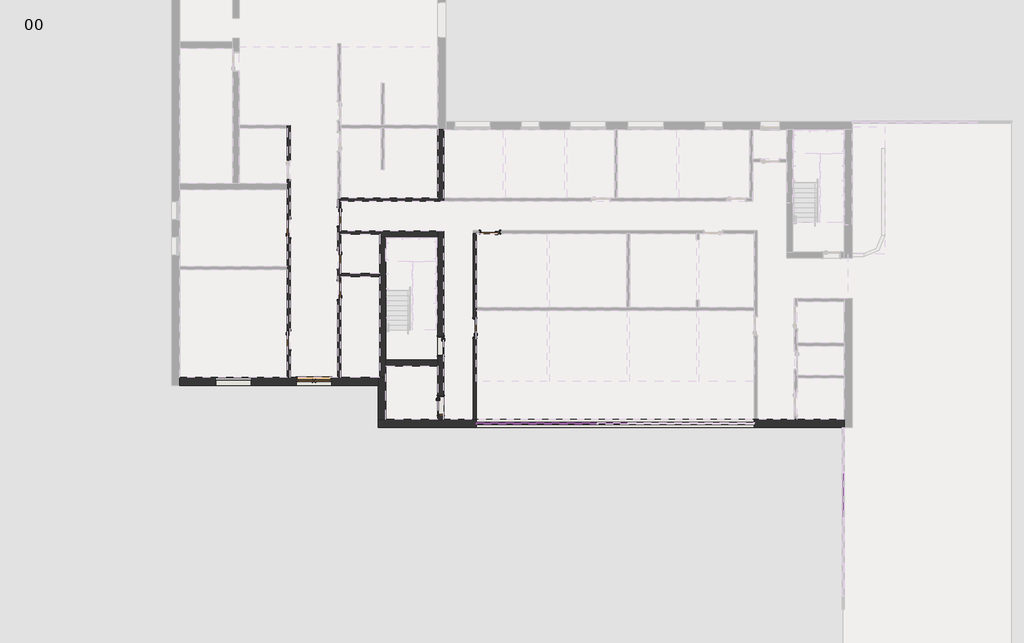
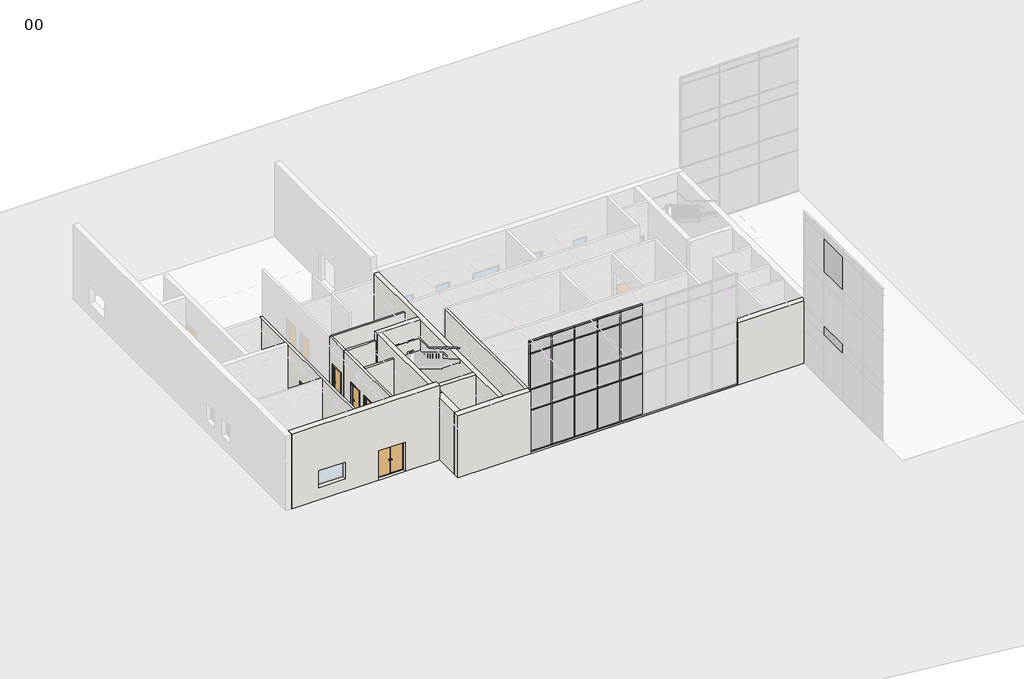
# One storey, part 2 of 11: 40 members, 22 plates, 14 walls, 10 doors.
"""IFC4 building model written with IfcOpenShell, lengths in millimetres."""

from ifc_helpers import new_model, si_unit, frame, origin, origin_with_axes, place, context, project, spatial, polyline, outline, extrude, faceted_brep, transform, mapped, element, save
from components import doors_intsgl_1_1010x2110mm_7920e6b8, doors_intsgl_1_1010x2110mm_12a6edaf, doors_intsgl_1_1010x2110mm_5517da8e, doors_intsgl_1_1010x2110mm_5eebe40c, doors_sco_extdbl_flush_1810x2110mm_3cdf6cdb, rectangular_mullion_curtainwallmullion_rectangular_generic_c971d07e, rectangular_mullion_curtainwallmullion_rectangular_generic_e6673756, rectangular_mullion_curtainwallmullion_rectangular_generic_63c9f2cf, rectangular_mullion_curtainwallmullion_rectangular_generic_d70bf6dd, rectangular_mullion_curtainwallmullion_rectangular_generic_654ac675, rectangular_mullion_curtainwallmullion_rectangular_generic_e7c47ca9, rectangular_mullion_curtainwallmullion_rectangular_generic_f3eef52e, rectangular_mullion_curtainwallmullion_rectangular_generic_c0600e94, rectangular_mullion_curtainwallmullion_rectangular_generic_0bcd7f07, rectangular_mullion_curtainwallmullion_rectangular_generic_3bdb59d8, rectangular_mullion_curtainwallmullion_rectangular_generic_0752d91b, rectangular_mullion_curtainwallmullion_rectangular_generic_141bc770, system_panel_curtainpanel_glazed_c42a0534, system_panel_curtainpanel_glazed_c680861d, system_panel_curtainpanel_glazed_7c054268, system_panel_curtainpanel_glazed_47e39832, system_panel_curtainpanel_glazed_d09689ee, system_panel_curtainpanel_solid_d52ec4f6, system_panel_curtainpanel_solid_5b00d7df, system_panel_curtainpanel_solid_a154ba9f, system_panel_curtainpanel_solid_78233117, system_panel_curtainpanel_solid_a9b64b58

model = new_model("IFC4")

# Units and contexts
model_context = context("Model", 3, world=origin())
ifc_project = project(units=[si_unit("LENGTHUNIT", "METRE", prefix="MILLI")], contexts=[model_context])

# Site, building, storey
site = spatial("IfcSite", under=ifc_project)
building = spatial("IfcBuilding", under=site)
storey = spatial("IfcBuildingStorey", under=building, Name="00", Elevation=0.0)

# Doors
placement = place(None, origin())
doors_intsgl_1_1010x2110mm_shape = doors_intsgl_1_1010x2110mm_7920e6b8(model_context)
element("IfcDoor", 1, ObjectType="Doors_IntSgl_1 : 1010x2110mm", at=placement, inside=storey, context=model_context, shape_type="MappedRepresentation", body=[
    mapped(doors_intsgl_1_1010x2110mm_shape, transform((417435.3206883, -392289.0026386, 0.0), x_axis=(0.0, -1.0, 0.0), y_axis=(1.0, 0.0, 0.0), z_axis=(0.0, 0.0, 1.0))),
])
doors_intsgl_1_1010x2110mm_2_shape = doors_intsgl_1_1010x2110mm_12a6edaf(model_context)
element("IfcDoor", 2, ObjectType="Doors_IntSgl_1 : 1010x2110mm", at=placement, inside=storey, context=model_context, shape_type="MappedRepresentation", body=[
    mapped(doors_intsgl_1_1010x2110mm_2_shape, transform((417435.3206883, -386584.0026386, 0.0), x_axis=(0.0, 1.0, 0.0), y_axis=(-1.0, 0.0, 0.0), z_axis=(0.0, 0.0, 1.0))),
])
element("IfcDoor", 3, ObjectType="Doors_IntSgl_1 : 1010x2110mm", at=placement, inside=storey, context=model_context, shape_type="MappedRepresentation", body=[
    mapped(doors_intsgl_1_1010x2110mm_shape, transform((419987.3206883, -389744.0026386, 0.0), x_axis=(0.0, 1.0, 0.0), y_axis=(-1.0, 0.0, 0.0), z_axis=(0.0, 0.0, 1.0))),
])
element("IfcDoor", 4, ObjectType="Doors_IntSgl_1 : 1010x2110mm", at=placement, inside=storey, context=model_context, shape_type="MappedRepresentation", body=[
    mapped(doors_intsgl_1_1010x2110mm_shape, transform((426897.3206883, -391673.0026386, 0.0), x_axis=(0.0, 1.0, 0.0), y_axis=(-1.0, 0.0, 0.0), z_axis=(0.0, 0.0, 1.0))),
])
element("IfcDoor", 5, ObjectType="Doors_IntSgl_1 : 1010x2110mm", at=placement, inside=storey, context=model_context, shape_type="MappedRepresentation", body=[
    mapped(doors_intsgl_1_1010x2110mm_2_shape, transform((419987.3206883, -388184.0026386, 0.0), x_axis=(0.0, -1.0, 0.0), y_axis=(1.0, 0.0, 0.0), z_axis=(0.0, 0.0, 1.0))),
])
element("IfcDoor", 6, ObjectType="Doors_IntSgl_1 : 1010x2110mm", at=placement, inside=storey, context=model_context, shape_type="MappedRepresentation", body=[
    mapped(doors_intsgl_1_1010x2110mm_2_shape, transform((419987.3206883, -386006.5026386, 0.0), x_axis=(0.0, -1.0, 0.0), y_axis=(1.0, 0.0, 0.0), z_axis=(0.0, 0.0, 1.0))),
])
element("IfcDoor", 7, ObjectType="Doors_IntSgl_1 : 1010x2110mm", at=placement, inside=storey, context=model_context, shape_type="MappedRepresentation", body=[
    mapped(doors_intsgl_1_1010x2110mm_2_shape, transform((427677.3206883, -386774.0026386, 0.0), x_axis=(-1.0, 0.0, 0.0), y_axis=(0.0, -1.0, 0.0), z_axis=(0.0, 0.0, 1.0))),
])
doors_intsgl_1_1010x2110mm_3_shape = doors_intsgl_1_1010x2110mm_5517da8e(model_context)
element("IfcDoor", 8, ObjectType="Doors_IntSgl_1 : 1010x2110mm", at=placement, inside=storey, context=model_context, shape_type="MappedRepresentation", body=[
    mapped(doors_intsgl_1_1010x2110mm_3_shape, transform((425167.3206883, -392594.0026386, 0.0), x_axis=(0.0, -1.0, 0.0), y_axis=(1.0, 0.0, 0.0), z_axis=(0.0, 0.0, 1.0))),
])
doors_intsgl_1_1010x2110mm_4_shape = doors_intsgl_1_1010x2110mm_5eebe40c(model_context)
element("IfcDoor", 9, ObjectType="Doors_IntSgl_1 : 1010x2110mm", at=placement, inside=storey, context=model_context, shape_type="MappedRepresentation", body=[
    mapped(doors_intsgl_1_1010x2110mm_4_shape, transform((425167.3206883, -395623.0026386, 0.0), x_axis=(0.0, -1.0, 0.0), y_axis=(1.0, 0.0, 0.0), z_axis=(0.0, 0.0, 1.0))),
])
doors_sco_extdbl_flush_1810x2110mm_shape = doors_sco_extdbl_flush_1810x2110mm_3cdf6cdb(model_context)
element("IfcDoor", 10, ObjectType="Doors_SCO_ExtDbl_Flush : 1810x2110mm", at=placement, inside=storey, context=model_context, shape_type="MappedRepresentation", body=[
    mapped(doors_sco_extdbl_flush_1810x2110mm_shape, transform((418711.3206883, -394395.0026386, 0.0), x_axis=(1.0, 0.0, 0.0), y_axis=(0.0, 1.0, 0.0), z_axis=(0.0, 0.0, 1.0))),
])

# Members
rectangular_mullion_curtainwallmullion_rectangular_generic_shape = rectangular_mullion_curtainwallmullion_rectangular_generic_c971d07e(model_context)
element("IfcMember", 11, ObjectType="Rectangular Mullion : CurtainWallMullion_Rectangular_Generic", at=placement, inside=storey, context=model_context, shape_type="MappedRepresentation", body=[
    mapped(rectangular_mullion_curtainwallmullion_rectangular_generic_shape, transform((433166.7651328, -396529.0026386, 8000.0), x_axis=(0.0, 0.0, 1.0), y_axis=(0.0, 1.0, 0.0), z_axis=(-1.0, 0.0, 0.0))),
])
element("IfcMember", 12, ObjectType="Rectangular Mullion : CurtainWallMullion_Rectangular_Generic", at=placement, inside=storey, context=model_context, shape_type="MappedRepresentation", body=[
    mapped(rectangular_mullion_curtainwallmullion_rectangular_generic_shape, transform((431605.6540218, -396529.0026386, 8000.0), x_axis=(0.0, 0.0, 1.0), y_axis=(0.0, 1.0, 0.0), z_axis=(-1.0, 0.0, 0.0))),
])
element("IfcMember", 13, ObjectType="Rectangular Mullion : CurtainWallMullion_Rectangular_Generic", at=placement, inside=storey, context=model_context, shape_type="MappedRepresentation", body=[
    mapped(rectangular_mullion_curtainwallmullion_rectangular_generic_shape, transform((430044.5429107, -396529.0026386, 8000.0), x_axis=(0.0, 0.0, 1.0), y_axis=(0.0, 1.0, 0.0), z_axis=(-1.0, 0.0, 0.0))),
])
element("IfcMember", 14, ObjectType="Rectangular Mullion : CurtainWallMullion_Rectangular_Generic", at=placement, inside=storey, context=model_context, shape_type="MappedRepresentation", body=[
    mapped(rectangular_mullion_curtainwallmullion_rectangular_generic_shape, transform((428483.4317997, -396529.0026386, 8000.0), x_axis=(0.0, 0.0, 1.0), y_axis=(0.0, 1.0, 0.0), z_axis=(-1.0, 0.0, 0.0))),
])
element("IfcMember", 15, ObjectType="Rectangular Mullion : CurtainWallMullion_Rectangular_Generic", at=placement, inside=storey, context=model_context, shape_type="MappedRepresentation", body=[
    mapped(rectangular_mullion_curtainwallmullion_rectangular_generic_shape, transform((433166.7651328, -396529.0026386, 0.0), x_axis=(0.0, 0.0, -1.0), y_axis=(0.0, 1.0, 0.0), z_axis=(1.0, 0.0, 0.0))),
])
element("IfcMember", 16, ObjectType="Rectangular Mullion : CurtainWallMullion_Rectangular_Generic", at=placement, inside=storey, context=model_context, shape_type="MappedRepresentation", body=[
    mapped(rectangular_mullion_curtainwallmullion_rectangular_generic_shape, transform((431605.6540218, -396529.0026386, 0.0), x_axis=(0.0, 0.0, -1.0), y_axis=(0.0, 1.0, 0.0), z_axis=(1.0, 0.0, 0.0))),
])
element("IfcMember", 17, ObjectType="Rectangular Mullion : CurtainWallMullion_Rectangular_Generic", at=placement, inside=storey, context=model_context, shape_type="MappedRepresentation", body=[
    mapped(rectangular_mullion_curtainwallmullion_rectangular_generic_shape, transform((430044.5429107, -396529.0026386, 0.0), x_axis=(0.0, 0.0, -1.0), y_axis=(0.0, 1.0, 0.0), z_axis=(1.0, 0.0, 0.0))),
])
rectangular_mullion_curtainwallmullion_rectangular_generic_2_shape = rectangular_mullion_curtainwallmullion_rectangular_generic_e6673756(model_context)
element("IfcMember", 18, ObjectType="Rectangular Mullion : CurtainWallMullion_Rectangular_Generic", at=placement, inside=storey, context=model_context, shape_type="MappedRepresentation", body=[
    mapped(rectangular_mullion_curtainwallmullion_rectangular_generic_2_shape, transform((433191.7651328, -396529.0026386, 3000.0), x_axis=(0.0, 0.0, 1.0), y_axis=(0.0, 1.0, 0.0), z_axis=(-1.0, 0.0, 0.0))),
])
element("IfcMember", 19, ObjectType="Rectangular Mullion : CurtainWallMullion_Rectangular_Generic", at=placement, inside=storey, context=model_context, shape_type="MappedRepresentation", body=[
    mapped(rectangular_mullion_curtainwallmullion_rectangular_generic_2_shape, transform((431630.6540218, -396529.0026386, 3000.0), x_axis=(0.0, 0.0, 1.0), y_axis=(0.0, 1.0, 0.0), z_axis=(-1.0, 0.0, 0.0))),
])
element("IfcMember", 20, ObjectType="Rectangular Mullion : CurtainWallMullion_Rectangular_Generic", at=placement, inside=storey, context=model_context, shape_type="MappedRepresentation", body=[
    mapped(rectangular_mullion_curtainwallmullion_rectangular_generic_2_shape, transform((430069.5429107, -396529.0026386, 3000.0), x_axis=(0.0, 0.0, 1.0), y_axis=(0.0, 1.0, 0.0), z_axis=(-1.0, 0.0, 0.0))),
])
element("IfcMember", 21, ObjectType="Rectangular Mullion : CurtainWallMullion_Rectangular_Generic", at=placement, inside=storey, context=model_context, shape_type="MappedRepresentation", body=[
    mapped(rectangular_mullion_curtainwallmullion_rectangular_generic_2_shape, transform((428508.4317997, -396529.0026386, 3000.0), x_axis=(0.0, 0.0, 1.0), y_axis=(0.0, 1.0, 0.0), z_axis=(-1.0, 0.0, 0.0))),
])
element("IfcMember", 22, ObjectType="Rectangular Mullion : CurtainWallMullion_Rectangular_Generic", at=placement, inside=storey, context=model_context, shape_type="MappedRepresentation", body=[
    mapped(rectangular_mullion_curtainwallmullion_rectangular_generic_2_shape, transform((431630.6540218, -396529.0026386, 4500.0), x_axis=(0.0, 0.0, 1.0), y_axis=(0.0, 1.0, 0.0), z_axis=(-1.0, 0.0, 0.0))),
])
element("IfcMember", 23, ObjectType="Rectangular Mullion : CurtainWallMullion_Rectangular_Generic", at=placement, inside=storey, context=model_context, shape_type="MappedRepresentation", body=[
    mapped(rectangular_mullion_curtainwallmullion_rectangular_generic_2_shape, transform((430069.5429107, -396529.0026386, 4500.0), x_axis=(0.0, 0.0, 1.0), y_axis=(0.0, 1.0, 0.0), z_axis=(-1.0, 0.0, 0.0))),
])
element("IfcMember", 24, ObjectType="Rectangular Mullion : CurtainWallMullion_Rectangular_Generic", at=placement, inside=storey, context=model_context, shape_type="MappedRepresentation", body=[
    mapped(rectangular_mullion_curtainwallmullion_rectangular_generic_2_shape, transform((428508.4317997, -396529.0026386, 4500.0), x_axis=(0.0, 0.0, 1.0), y_axis=(0.0, 1.0, 0.0), z_axis=(-1.0, 0.0, 0.0))),
])
element("IfcMember", 25, ObjectType="Rectangular Mullion : CurtainWallMullion_Rectangular_Generic", at=placement, inside=storey, context=model_context, shape_type="MappedRepresentation", body=[
    mapped(rectangular_mullion_curtainwallmullion_rectangular_generic_2_shape, transform((431630.6540218, -396529.0026386, 7100.0), x_axis=(0.0, 0.0, 1.0), y_axis=(0.0, 1.0, 0.0), z_axis=(-1.0, 0.0, 0.0))),
])
element("IfcMember", 26, ObjectType="Rectangular Mullion : CurtainWallMullion_Rectangular_Generic", at=placement, inside=storey, context=model_context, shape_type="MappedRepresentation", body=[
    mapped(rectangular_mullion_curtainwallmullion_rectangular_generic_2_shape, transform((430069.5429107, -396529.0026386, 7100.0), x_axis=(0.0, 0.0, 1.0), y_axis=(0.0, 1.0, 0.0), z_axis=(-1.0, 0.0, 0.0))),
])
element("IfcMember", 27, ObjectType="Rectangular Mullion : CurtainWallMullion_Rectangular_Generic", at=placement, inside=storey, context=model_context, shape_type="MappedRepresentation", body=[
    mapped(rectangular_mullion_curtainwallmullion_rectangular_generic_2_shape, transform((428508.4317997, -396529.0026386, 7100.0), x_axis=(0.0, 0.0, 1.0), y_axis=(0.0, 1.0, 0.0), z_axis=(-1.0, 0.0, 0.0))),
])
rectangular_mullion_curtainwallmullion_rectangular_generic_3_shape = rectangular_mullion_curtainwallmullion_rectangular_generic_63c9f2cf(model_context)
element("IfcMember", 28, ObjectType="Rectangular Mullion : CurtainWallMullion_Rectangular_Generic", at=placement, inside=storey, context=model_context, shape_type="MappedRepresentation", body=[
    mapped(rectangular_mullion_curtainwallmullion_rectangular_generic_3_shape, transform((431605.6540218, -396529.0026386, 7100.0), x_axis=(-1.0, 0.0, 0.0), y_axis=(0.0, 1.0, 0.0), z_axis=(0.0, 0.0, -1.0))),
])
element("IfcMember", 29, ObjectType="Rectangular Mullion : CurtainWallMullion_Rectangular_Generic", at=placement, inside=storey, context=model_context, shape_type="MappedRepresentation", body=[
    mapped(rectangular_mullion_curtainwallmullion_rectangular_generic_3_shape, transform((430044.5429107, -396529.0026386, 7100.0), x_axis=(-1.0, 0.0, 0.0), y_axis=(0.0, 1.0, 0.0), z_axis=(0.0, 0.0, -1.0))),
])
element("IfcMember", 30, ObjectType="Rectangular Mullion : CurtainWallMullion_Rectangular_Generic", at=placement, inside=storey, context=model_context, shape_type="MappedRepresentation", body=[
    mapped(rectangular_mullion_curtainwallmullion_rectangular_generic_3_shape, transform((428483.4317997, -396529.0026386, 7100.0), x_axis=(-1.0, 0.0, 0.0), y_axis=(0.0, 1.0, 0.0), z_axis=(0.0, 0.0, -1.0))),
])
rectangular_mullion_curtainwallmullion_rectangular_generic_4_shape = rectangular_mullion_curtainwallmullion_rectangular_generic_d70bf6dd(model_context)
element("IfcMember", 31, ObjectType="Rectangular Mullion : CurtainWallMullion_Rectangular_Generic", at=placement, inside=storey, context=model_context, shape_type="MappedRepresentation", body=[
    mapped(rectangular_mullion_curtainwallmullion_rectangular_generic_4_shape, transform((426972.3206883, -396529.0026386, 7100.0), x_axis=(-1.0, 0.0, 0.0), y_axis=(0.0, 1.0, 0.0), z_axis=(0.0, 0.0, -1.0))),
])
rectangular_mullion_curtainwallmullion_rectangular_generic_5_shape = rectangular_mullion_curtainwallmullion_rectangular_generic_654ac675(model_context)
element("IfcMember", 32, ObjectType="Rectangular Mullion : CurtainWallMullion_Rectangular_Generic", at=placement, inside=storey, context=model_context, shape_type="MappedRepresentation", body=[
    mapped(rectangular_mullion_curtainwallmullion_rectangular_generic_5_shape, transform((431605.6540218, -396529.0026386, 4500.0), x_axis=(-1.0, 0.0, 0.0), y_axis=(0.0, 1.0, 0.0), z_axis=(0.0, 0.0, -1.0))),
])
element("IfcMember", 33, ObjectType="Rectangular Mullion : CurtainWallMullion_Rectangular_Generic", at=placement, inside=storey, context=model_context, shape_type="MappedRepresentation", body=[
    mapped(rectangular_mullion_curtainwallmullion_rectangular_generic_5_shape, transform((430044.5429107, -396529.0026386, 4500.0), x_axis=(-1.0, 0.0, 0.0), y_axis=(0.0, 1.0, 0.0), z_axis=(0.0, 0.0, -1.0))),
])
element("IfcMember", 34, ObjectType="Rectangular Mullion : CurtainWallMullion_Rectangular_Generic", at=placement, inside=storey, context=model_context, shape_type="MappedRepresentation", body=[
    mapped(rectangular_mullion_curtainwallmullion_rectangular_generic_5_shape, transform((428483.4317997, -396529.0026386, 4500.0), x_axis=(-1.0, 0.0, 0.0), y_axis=(0.0, 1.0, 0.0), z_axis=(0.0, 0.0, -1.0))),
])
rectangular_mullion_curtainwallmullion_rectangular_generic_6_shape = rectangular_mullion_curtainwallmullion_rectangular_generic_e7c47ca9(model_context)
element("IfcMember", 35, ObjectType="Rectangular Mullion : CurtainWallMullion_Rectangular_Generic", at=placement, inside=storey, context=model_context, shape_type="MappedRepresentation", body=[
    mapped(rectangular_mullion_curtainwallmullion_rectangular_generic_6_shape, transform((426972.3206883, -396529.0026386, 4500.0), x_axis=(-1.0, 0.0, 0.0), y_axis=(0.0, 1.0, 0.0), z_axis=(0.0, 0.0, -1.0))),
])
rectangular_mullion_curtainwallmullion_rectangular_generic_7_shape = rectangular_mullion_curtainwallmullion_rectangular_generic_f3eef52e(model_context)
element("IfcMember", 36, ObjectType="Rectangular Mullion : CurtainWallMullion_Rectangular_Generic", at=placement, inside=storey, context=model_context, shape_type="MappedRepresentation", body=[
    mapped(rectangular_mullion_curtainwallmullion_rectangular_generic_7_shape, transform((433166.7651328, -396529.0026386, 50.0), x_axis=(-1.0, 0.0, 0.0), y_axis=(0.0, 1.0, 0.0), z_axis=(0.0, 0.0, -1.0))),
])
element("IfcMember", 37, ObjectType="Rectangular Mullion : CurtainWallMullion_Rectangular_Generic", at=placement, inside=storey, context=model_context, shape_type="MappedRepresentation", body=[
    mapped(rectangular_mullion_curtainwallmullion_rectangular_generic_7_shape, transform((431605.6540218, -396529.0026386, 50.0), x_axis=(-1.0, 0.0, 0.0), y_axis=(0.0, 1.0, 0.0), z_axis=(0.0, 0.0, -1.0))),
])
element("IfcMember", 38, ObjectType="Rectangular Mullion : CurtainWallMullion_Rectangular_Generic", at=placement, inside=storey, context=model_context, shape_type="MappedRepresentation", body=[
    mapped(rectangular_mullion_curtainwallmullion_rectangular_generic_7_shape, transform((430044.5429107, -396529.0026386, 50.0), x_axis=(-1.0, 0.0, 0.0), y_axis=(0.0, 1.0, 0.0), z_axis=(0.0, 0.0, -1.0))),
])
element("IfcMember", 39, ObjectType="Rectangular Mullion : CurtainWallMullion_Rectangular_Generic", at=placement, inside=storey, context=model_context, shape_type="MappedRepresentation", body=[
    mapped(rectangular_mullion_curtainwallmullion_rectangular_generic_7_shape, transform((428483.4317997, -396529.0026386, 50.0), x_axis=(-1.0, 0.0, 0.0), y_axis=(0.0, 1.0, 0.0), z_axis=(0.0, 0.0, -1.0))),
])
rectangular_mullion_curtainwallmullion_rectangular_generic_8_shape = rectangular_mullion_curtainwallmullion_rectangular_generic_c0600e94(model_context)
element("IfcMember", 40, ObjectType="Rectangular Mullion : CurtainWallMullion_Rectangular_Generic", at=placement, inside=storey, context=model_context, shape_type="MappedRepresentation", body=[
    mapped(rectangular_mullion_curtainwallmullion_rectangular_generic_8_shape, transform((433166.7651328, -396529.0026386, 3000.0), x_axis=(-1.0, 0.0, 0.0), y_axis=(0.0, 1.0, 0.0), z_axis=(0.0, 0.0, -1.0))),
])
element("IfcMember", 41, ObjectType="Rectangular Mullion : CurtainWallMullion_Rectangular_Generic", at=placement, inside=storey, context=model_context, shape_type="MappedRepresentation", body=[
    mapped(rectangular_mullion_curtainwallmullion_rectangular_generic_8_shape, transform((431605.6540218, -396529.0026386, 3000.0), x_axis=(-1.0, 0.0, 0.0), y_axis=(0.0, 1.0, 0.0), z_axis=(0.0, 0.0, -1.0))),
])
element("IfcMember", 42, ObjectType="Rectangular Mullion : CurtainWallMullion_Rectangular_Generic", at=placement, inside=storey, context=model_context, shape_type="MappedRepresentation", body=[
    mapped(rectangular_mullion_curtainwallmullion_rectangular_generic_8_shape, transform((430044.5429107, -396529.0026386, 3000.0), x_axis=(-1.0, 0.0, 0.0), y_axis=(0.0, 1.0, 0.0), z_axis=(0.0, 0.0, -1.0))),
])
element("IfcMember", 43, ObjectType="Rectangular Mullion : CurtainWallMullion_Rectangular_Generic", at=placement, inside=storey, context=model_context, shape_type="MappedRepresentation", body=[
    mapped(rectangular_mullion_curtainwallmullion_rectangular_generic_8_shape, transform((428483.4317997, -396529.0026386, 3000.0), x_axis=(-1.0, 0.0, 0.0), y_axis=(0.0, 1.0, 0.0), z_axis=(0.0, 0.0, -1.0))),
])
rectangular_mullion_curtainwallmullion_rectangular_generic_9_shape = rectangular_mullion_curtainwallmullion_rectangular_generic_0bcd7f07(model_context)
element("IfcMember", 44, ObjectType="Rectangular Mullion : CurtainWallMullion_Rectangular_Generic", at=placement, inside=storey, context=model_context, shape_type="MappedRepresentation", body=[
    mapped(rectangular_mullion_curtainwallmullion_rectangular_generic_9_shape, transform((426972.3206883, -396529.0026386, 50.0), x_axis=(-1.0, 0.0, 0.0), y_axis=(0.0, 1.0, 0.0), z_axis=(0.0, 0.0, -1.0))),
])
rectangular_mullion_curtainwallmullion_rectangular_generic_10_shape = rectangular_mullion_curtainwallmullion_rectangular_generic_3bdb59d8(model_context)
element("IfcMember", 45, ObjectType="Rectangular Mullion : CurtainWallMullion_Rectangular_Generic", at=placement, inside=storey, context=model_context, shape_type="MappedRepresentation", body=[
    mapped(rectangular_mullion_curtainwallmullion_rectangular_generic_10_shape, transform((426972.3206883, -396529.0026386, 3000.0), x_axis=(-1.0, 0.0, 0.0), y_axis=(0.0, 1.0, 0.0), z_axis=(0.0, 0.0, -1.0))),
])
rectangular_mullion_curtainwallmullion_rectangular_generic_11_shape = rectangular_mullion_curtainwallmullion_rectangular_generic_0752d91b(model_context)
element("IfcMember", 46, ObjectType="Rectangular Mullion : CurtainWallMullion_Rectangular_Generic", at=placement, inside=storey, context=model_context, shape_type="MappedRepresentation", body=[
    mapped(rectangular_mullion_curtainwallmullion_rectangular_generic_11_shape, transform((426972.3206883, -396529.0026386, 8000.0), x_axis=(0.0, 0.0, 1.0), y_axis=(0.0, 1.0, 0.0), z_axis=(-1.0, 0.0, 0.0))),
])
element("IfcMember", 47, ObjectType="Rectangular Mullion : CurtainWallMullion_Rectangular_Generic", at=placement, inside=storey, context=model_context, shape_type="MappedRepresentation", body=[
    mapped(rectangular_mullion_curtainwallmullion_rectangular_generic_11_shape, transform((428483.4317997, -396529.0026386, 0.0), x_axis=(0.0, 0.0, -1.0), y_axis=(0.0, 1.0, 0.0), z_axis=(1.0, 0.0, 0.0))),
])
rectangular_mullion_curtainwallmullion_rectangular_generic_12_shape = rectangular_mullion_curtainwallmullion_rectangular_generic_141bc770(model_context)
element("IfcMember", 48, ObjectType="Rectangular Mullion : CurtainWallMullion_Rectangular_Generic", at=placement, inside=storey, context=model_context, shape_type="MappedRepresentation", body=[
    mapped(rectangular_mullion_curtainwallmullion_rectangular_generic_12_shape, transform((427022.3206883, -396529.0026386, 3000.0), x_axis=(0.0, 0.0, 1.0), y_axis=(0.0, 1.0, 0.0), z_axis=(-1.0, 0.0, 0.0))),
])
element("IfcMember", 49, ObjectType="Rectangular Mullion : CurtainWallMullion_Rectangular_Generic", at=placement, inside=storey, context=model_context, shape_type="MappedRepresentation", body=[
    mapped(rectangular_mullion_curtainwallmullion_rectangular_generic_12_shape, transform((427022.3206883, -396529.0026386, 4500.0), x_axis=(0.0, 0.0, 1.0), y_axis=(0.0, 1.0, 0.0), z_axis=(-1.0, 0.0, 0.0))),
])
element("IfcMember", 50, ObjectType="Rectangular Mullion : CurtainWallMullion_Rectangular_Generic", at=placement, inside=storey, context=model_context, shape_type="MappedRepresentation", body=[
    mapped(rectangular_mullion_curtainwallmullion_rectangular_generic_12_shape, transform((427022.3206883, -396529.0026386, 7100.0), x_axis=(0.0, 0.0, 1.0), y_axis=(0.0, 1.0, 0.0), z_axis=(-1.0, 0.0, 0.0))),
])

# Plates
system_panel_curtainpanel_glazed_shape = system_panel_curtainpanel_glazed_c42a0534(model_context)
element("IfcPlate", 51, ObjectType="System Panel : CurtainPanel_Glazed", at=placement, inside=storey, context=model_context, shape_type="MappedRepresentation", body=[
    mapped(system_panel_curtainpanel_glazed_shape, transform((445668.3206883, -400195.8026387, 8025.0), x_axis=(0.0, 1.0, 0.0), y_axis=(-1.0, 0.0, 0.0), z_axis=(0.0, 0.0, 1.0))),
])
system_panel_curtainpanel_glazed_2_shape = system_panel_curtainpanel_glazed_c680861d(model_context)
element("IfcPlate", 52, ObjectType="System Panel : CurtainPanel_Glazed", at=placement, inside=storey, context=model_context, shape_type="MappedRepresentation", body=[
    mapped(system_panel_curtainpanel_glazed_2_shape, transform((433947.3206883, -396529.0026386, 4525.0), x_axis=(-1.0, 0.0, 0.0), y_axis=(0.0, -1.0, 0.0), z_axis=(0.0, 0.0, 1.0))),
])
element("IfcPlate", 53, ObjectType="System Panel : CurtainPanel_Glazed", at=placement, inside=storey, context=model_context, shape_type="MappedRepresentation", body=[
    mapped(system_panel_curtainpanel_glazed_2_shape, transform((432386.2095773, -396529.0026386, 4525.0), x_axis=(-1.0, 0.0, 0.0), y_axis=(0.0, -1.0, 0.0), z_axis=(0.0, 0.0, 1.0))),
])
element("IfcPlate", 54, ObjectType="System Panel : CurtainPanel_Glazed", at=placement, inside=storey, context=model_context, shape_type="MappedRepresentation", body=[
    mapped(system_panel_curtainpanel_glazed_2_shape, transform((430825.0984662, -396529.0026386, 4525.0), x_axis=(-1.0, 0.0, 0.0), y_axis=(0.0, -1.0, 0.0), z_axis=(0.0, 0.0, 1.0))),
])
element("IfcPlate", 55, ObjectType="System Panel : CurtainPanel_Glazed", at=placement, inside=storey, context=model_context, shape_type="MappedRepresentation", body=[
    mapped(system_panel_curtainpanel_glazed_2_shape, transform((429263.9873552, -396529.0026386, 4525.0), x_axis=(-1.0, 0.0, 0.0), y_axis=(0.0, -1.0, 0.0), z_axis=(0.0, 0.0, 1.0))),
])
system_panel_curtainpanel_glazed_3_shape = system_panel_curtainpanel_glazed_7c054268(model_context)
element("IfcPlate", 56, ObjectType="System Panel : CurtainPanel_Glazed", at=placement, inside=storey, context=model_context, shape_type="MappedRepresentation", body=[
    mapped(system_panel_curtainpanel_glazed_3_shape, transform((433947.3206883, -396529.0026386, 50.0), x_axis=(-1.0, 0.0, 0.0), y_axis=(0.0, -1.0, 0.0), z_axis=(0.0, 0.0, 1.0))),
])
element("IfcPlate", 57, ObjectType="System Panel : CurtainPanel_Glazed", at=placement, inside=storey, context=model_context, shape_type="MappedRepresentation", body=[
    mapped(system_panel_curtainpanel_glazed_3_shape, transform((432386.2095773, -396529.0026386, 50.0), x_axis=(-1.0, 0.0, 0.0), y_axis=(0.0, -1.0, 0.0), z_axis=(0.0, 0.0, 1.0))),
])
element("IfcPlate", 58, ObjectType="System Panel : CurtainPanel_Glazed", at=placement, inside=storey, context=model_context, shape_type="MappedRepresentation", body=[
    mapped(system_panel_curtainpanel_glazed_3_shape, transform((430825.0984662, -396529.0026386, 50.0), x_axis=(-1.0, 0.0, 0.0), y_axis=(0.0, -1.0, 0.0), z_axis=(0.0, 0.0, 1.0))),
])
element("IfcPlate", 59, ObjectType="System Panel : CurtainPanel_Glazed", at=placement, inside=storey, context=model_context, shape_type="MappedRepresentation", body=[
    mapped(system_panel_curtainpanel_glazed_3_shape, transform((429263.9873552, -396529.0026386, 50.0), x_axis=(-1.0, 0.0, 0.0), y_axis=(0.0, -1.0, 0.0), z_axis=(0.0, 0.0, 1.0))),
])
system_panel_curtainpanel_glazed_4_shape = system_panel_curtainpanel_glazed_47e39832(model_context)
element("IfcPlate", 60, ObjectType="System Panel : CurtainPanel_Glazed", at=placement, inside=storey, context=model_context, shape_type="MappedRepresentation", body=[
    mapped(system_panel_curtainpanel_glazed_4_shape, transform((427740.376244, -396529.0026386, 50.0), x_axis=(-1.0, 0.0, 0.0), y_axis=(0.0, -1.0, 0.0), z_axis=(0.0, 0.0, 1.0))),
])
system_panel_curtainpanel_glazed_5_shape = system_panel_curtainpanel_glazed_d09689ee(model_context)
element("IfcPlate", 61, ObjectType="System Panel : CurtainPanel_Glazed", at=placement, inside=storey, context=model_context, shape_type="MappedRepresentation", body=[
    mapped(system_panel_curtainpanel_glazed_5_shape, transform((427740.376244, -396529.0026386, 4525.0), x_axis=(-1.0, 0.0, 0.0), y_axis=(0.0, -1.0, 0.0), z_axis=(0.0, 0.0, 1.0))),
])
system_panel_curtainpanel_solid_shape = system_panel_curtainpanel_solid_d52ec4f6(model_context)
element("IfcPlate", 62, ObjectType="System Panel : CurtainPanel_Solid", at=placement, inside=storey, context=model_context, shape_type="MappedRepresentation", body=[
    mapped(system_panel_curtainpanel_solid_shape, transform((445668.3206883, -400195.8026387, 3450.0), x_axis=(0.0, 1.0, 0.0), y_axis=(-1.0, 0.0, 0.0), z_axis=(0.0, 0.0, 1.0))),
])
system_panel_curtainpanel_solid_2_shape = system_panel_curtainpanel_solid_5b00d7df(model_context)
element("IfcPlate", 63, ObjectType="System Panel : CurtainPanel_Solid", at=placement, inside=storey, context=model_context, shape_type="MappedRepresentation", body=[
    mapped(system_panel_curtainpanel_solid_2_shape, transform((433947.3206883, -396529.0026386, 7125.0), x_axis=(-1.0, 0.0, 0.0), y_axis=(0.0, -1.0, 0.0), z_axis=(0.0, 0.0, 1.0))),
])
element("IfcPlate", 64, ObjectType="System Panel : CurtainPanel_Solid", at=placement, inside=storey, context=model_context, shape_type="MappedRepresentation", body=[
    mapped(system_panel_curtainpanel_solid_2_shape, transform((432386.2095773, -396529.0026386, 7125.0), x_axis=(-1.0, 0.0, 0.0), y_axis=(0.0, -1.0, 0.0), z_axis=(0.0, 0.0, 1.0))),
])
element("IfcPlate", 65, ObjectType="System Panel : CurtainPanel_Solid", at=placement, inside=storey, context=model_context, shape_type="MappedRepresentation", body=[
    mapped(system_panel_curtainpanel_solid_2_shape, transform((430825.0984662, -396529.0026386, 7125.0), x_axis=(-1.0, 0.0, 0.0), y_axis=(0.0, -1.0, 0.0), z_axis=(0.0, 0.0, 1.0))),
])
element("IfcPlate", 66, ObjectType="System Panel : CurtainPanel_Solid", at=placement, inside=storey, context=model_context, shape_type="MappedRepresentation", body=[
    mapped(system_panel_curtainpanel_solid_2_shape, transform((429263.9873552, -396529.0026386, 7125.0), x_axis=(-1.0, 0.0, 0.0), y_axis=(0.0, -1.0, 0.0), z_axis=(0.0, 0.0, 1.0))),
])
system_panel_curtainpanel_solid_3_shape = system_panel_curtainpanel_solid_a154ba9f(model_context)
element("IfcPlate", 67, ObjectType="System Panel : CurtainPanel_Solid", at=placement, inside=storey, context=model_context, shape_type="MappedRepresentation", body=[
    mapped(system_panel_curtainpanel_solid_3_shape, transform((433947.3206883, -396529.0026386, 3025.0), x_axis=(-1.0, 0.0, 0.0), y_axis=(0.0, -1.0, 0.0), z_axis=(0.0, 0.0, 1.0))),
])
element("IfcPlate", 68, ObjectType="System Panel : CurtainPanel_Solid", at=placement, inside=storey, context=model_context, shape_type="MappedRepresentation", body=[
    mapped(system_panel_curtainpanel_solid_3_shape, transform((432386.2095773, -396529.0026386, 3025.0), x_axis=(-1.0, 0.0, 0.0), y_axis=(0.0, -1.0, 0.0), z_axis=(0.0, 0.0, 1.0))),
])
element("IfcPlate", 69, ObjectType="System Panel : CurtainPanel_Solid", at=placement, inside=storey, context=model_context, shape_type="MappedRepresentation", body=[
    mapped(system_panel_curtainpanel_solid_3_shape, transform((430825.0984662, -396529.0026386, 3025.0), x_axis=(-1.0, 0.0, 0.0), y_axis=(0.0, -1.0, 0.0), z_axis=(0.0, 0.0, 1.0))),
])
element("IfcPlate", 70, ObjectType="System Panel : CurtainPanel_Solid", at=placement, inside=storey, context=model_context, shape_type="MappedRepresentation", body=[
    mapped(system_panel_curtainpanel_solid_3_shape, transform((429263.9873552, -396529.0026386, 3025.0), x_axis=(-1.0, 0.0, 0.0), y_axis=(0.0, -1.0, 0.0), z_axis=(0.0, 0.0, 1.0))),
])
system_panel_curtainpanel_solid_4_shape = system_panel_curtainpanel_solid_78233117(model_context)
element("IfcPlate", 71, ObjectType="System Panel : CurtainPanel_Solid", at=placement, inside=storey, context=model_context, shape_type="MappedRepresentation", body=[
    mapped(system_panel_curtainpanel_solid_4_shape, transform((427740.376244, -396529.0026386, 3025.0), x_axis=(-1.0, 0.0, 0.0), y_axis=(0.0, -1.0, 0.0), z_axis=(0.0, 0.0, 1.0))),
])
system_panel_curtainpanel_solid_5_shape = system_panel_curtainpanel_solid_a9b64b58(model_context)
element("IfcPlate", 72, ObjectType="System Panel : CurtainPanel_Solid", at=placement, inside=storey, context=model_context, shape_type="MappedRepresentation", body=[
    mapped(system_panel_curtainpanel_solid_5_shape, transform((427740.376244, -396529.0026386, 7125.0), x_axis=(-1.0, 0.0, 0.0), y_axis=(0.0, -1.0, 0.0), z_axis=(0.0, 0.0, 1.0))),
])

# Walls
element("IfcWall", 73, ObjectType="Wall_Exterior_WSUK", at=placement, inside=storey, context=model_context, shape_type="Brep", body=[
    faceted_brep([(445738.3206883, -396328.0026386, -1000.0), (425322.3206883, -396328.0026386, -1000.0), (425012.3206883, -396328.0026386, -1000.0), (422376.3206883, -396328.0026386, -1000.0), (421974.3206883, -396328.0026386, -1000.0), (421974.3206883, -396328.0026386, 4500.0), (422376.3206883, -396328.0026386, 4500.0), (425012.3206883, -396328.0026386, 4500.0), (425322.3206883, -396328.0026386, 4500.0), (426822.3206883, -396328.0026386, 4500.0), (426972.3206883, -396328.0026386, 4500.0), (426972.3206883, -396328.0026386, 0.0), (441142.3206883, -396328.0026386, 0.0), (441142.3206883, -396328.0026386, 4500.0), (441292.3206883, -396328.0026386, 4500.0), (443188.3206883, -396328.0026386, 4500.0), (443338.3206883, -396328.0026386, 4500.0), (445738.3206883, -396328.0026386, 4500.0), (421974.3206883, -396730.0026386, -1000.0), (445738.3206883, -396730.0026386, -1000.0), (445738.3206883, -396730.0026386, 4500.0), (441142.3206883, -396730.0026386, 4500.0), (441142.3206883, -396730.0026386, 0.0), (426972.3206883, -396730.0026386, 0.0), (426972.3206883, -396730.0026386, 4500.0), (421974.3206883, -396730.0026386, 4500.0)], [[[0, 1, 2, 3, 4, 5, 6, 7, 8, 9, 10, 11, 12, 13, 14, 15, 16, 17]], [[18, 19, 20, 21, 22, 23, 24, 25]], [[4, 3, 2, 1, 0, 19, 18]], [[5, 25, 24, 10, 9, 8, 7, 6]], [[20, 17, 16, 15, 14, 13, 21]], [[5, 4, 18, 25]], [[17, 20, 19, 0]], [[12, 22, 21, 13]], [[23, 11, 10, 24]], [[22, 12, 11, 23]]]),
])
element("IfcWall", 74, ObjectType="Wall_Exterior_WSUK", at=placement, inside=storey, context=model_context, shape_type="Brep", body=[
    faceted_brep([(422376.3206883, -396328.0026386, -1000.0), (422376.3206883, -394194.0026386, -1000.0), (422376.3206883, -394194.0026386, 4500.0), (422376.3206883, -396328.0026386, 4500.0), (421974.3206883, -396328.0026386, -1000.0), (421974.3206883, -396328.0026386, 4500.0), (421974.3206883, -394194.0026386, 4500.0), (421974.3206883, -394194.0026386, -1000.0), (421974.3206883, -394596.0026386, -1000.0), (422066.3206883, -394194.0026386, -1000.0), (422066.3206883, -394194.0026386, 4500.0)], [[[0, 1, 2, 3]], [[4, 5, 6, 7, 8]], [[1, 0, 4, 8, 7, 9]], [[3, 2, 10, 6, 5]], [[0, 3, 5, 4]], [[2, 1, 9, 7, 6, 10]]]),
])
element("IfcWall", 75, ObjectType="Wall_Exterior_WSUK", at=placement, inside=storey, context=model_context, shape_type="Brep", body=[
    faceted_brep([(421974.3206883, -394194.0026386, -1000.0), (411860.3206883, -394194.0026386, -1000.0), (411860.3206883, -394194.0026386, 5400.0), (421974.3206883, -394194.0026386, 5400.0), (421974.3206883, -394194.0026386, 4500.0), (417831.3206883, -394194.0026386, 0.0), (419591.3206883, -394194.0026386, 0.0), (419591.3206883, -394194.0026386, 2110.0), (417831.3206883, -394194.0026386, 2110.0), (413705.3206883, -394194.0026386, 2110.0), (413705.3206883, -394194.0026386, 900.0), (415515.3206883, -394194.0026386, 900.0), (415515.3206883, -394194.0026386, 2110.0), (411860.3206883, -394596.0026386, -1000.0), (421974.3206883, -394596.0026386, -1000.0), (421974.3206883, -394596.0026386, 5400.0), (411860.3206883, -394596.0026386, 5400.0), (419616.3206883, -394596.0026386, 2110.0), (419616.3206883, -394596.0026386, 0.0), (417806.3206883, -394596.0026386, 0.0), (417806.3206883, -394596.0026386, 2110.0), (413705.3206883, -394596.0026386, 2110.0), (415515.3206883, -394596.0026386, 2110.0), (415515.3206883, -394596.0026386, 900.0), (413705.3206883, -394596.0026386, 900.0), (417806.3206883, -394296.5026386, 2110.0), (417806.3206883, -394296.5026386, 0.0), (417831.3206883, -394296.5026386, 0.0), (417831.3206883, -394296.5026386, 2110.0), (419616.3206883, -394296.5026386, 0.0), (419616.3206883, -394296.5026386, 2110.0), (419591.3206883, -394296.5026386, 2110.0), (419591.3206883, -394296.5026386, 0.0)], [[[0, 1, 2, 3, 4], [5, 6, 7, 8], [9, 10, 11, 12]], [[13, 14, 15, 16], [17, 18, 19, 20], [21, 22, 23, 24]], [[1, 0, 14, 13]], [[3, 2, 16, 15]], [[25, 26, 27, 28]], [[29, 30, 31, 32]], [[30, 29, 18, 17]], [[27, 26, 19, 18, 29, 32, 6, 5]], [[26, 25, 20, 19]], [[25, 28, 8, 7, 31, 30, 17, 20]], [[28, 27, 5, 8]], [[32, 31, 7, 6]], [[10, 9, 21, 24]], [[11, 10, 24, 23]], [[12, 11, 23, 22]], [[9, 12, 22, 21]], [[14, 0, 4, 3, 15]], [[2, 1, 13, 16]]]),
])
element("IfcWall", 76, ObjectType="Wall_Exterior_WSUK 2hr", at=placement, inside=storey, context=model_context, shape_type="Brep", body=[
    faceted_brep([(425012.3206883, -381550.0026386, -1000.0), (425012.3206883, -386739.0026386, -1000.0), (425012.3206883, -387049.0026386, -1000.0), (425012.3206883, -393299.0026386, -1000.0), (425012.3206883, -393609.0026386, -1000.0), (425012.3206883, -396328.0026386, -1000.0), (425012.3206883, -396328.0026386, 4500.0), (425012.3206883, -393609.0026386, 4500.0), (425012.3206883, -393299.0026386, 4500.0), (425012.3206883, -387049.0026386, 4500.0), (425012.3206883, -386739.0026386, 4500.0), (425012.3206883, -381550.0026386, 4500.0), (425012.3206883, -396128.0026386, 2110.0), (425012.3206883, -396128.0026386, 0.0), (425012.3206883, -395118.0026386, 0.0), (425012.3206883, -395118.0026386, 2110.0), (425012.3206883, -385199.0026386, 3019.2), (425012.3206883, -386739.0026386, 3019.2), (425012.3206883, -386739.0026386, -100.0), (425012.3206883, -385199.0026386, -100.0), (425012.3206883, -385199.0026386, 0.0), (425012.3206883, -393099.0026386, 2110.0), (425012.3206883, -393099.0026386, 0.0), (425012.3206883, -392089.0026386, 0.0), (425012.3206883, -392089.0026386, 2110.0), (425322.3206883, -396328.0026386, -1000.0), (425322.3206883, -381550.0026386, -1000.0), (425322.3206883, -381550.0026386, 4500.0), (425322.3206883, -385049.0026386, 4500.0), (425322.3206883, -385199.0026386, 4500.0), (425322.3206883, -386848.0026386, 4500.0), (425322.3206883, -396328.0026386, 4500.0), (425322.3206883, -396128.0026386, 0.0), (425322.3206883, -396128.0026386, 2110.0), (425322.3206883, -395118.0026386, 2110.0), (425322.3206883, -395118.0026386, 0.0), (425322.3206883, -386739.0026386, 3019.2), (425322.3206883, -385199.0026386, 3019.2), (425322.3206883, -385199.0026386, 0.0), (425322.3206883, -385199.0026386, -100.0), (425322.3206883, -386739.0026386, -100.0), (425322.3206883, -393099.0026386, 0.0), (425322.3206883, -393099.0026386, 2110.0), (425322.3206883, -392089.0026386, 2110.0), (425322.3206883, -392089.0026386, 0.0)], [[[0, 1, 2, 3, 4, 5, 6, 7, 8, 9, 10, 11], [12, 13, 14, 15], [16, 17, 18, 19, 20], [21, 22, 23, 24]], [[25, 26, 27, 28, 29, 30, 31], [32, 33, 34, 35], [36, 37, 38, 39, 40], [41, 42, 43, 44]], [[5, 4, 3, 2, 1, 0, 26, 25]], [[11, 10, 9, 8, 7, 6, 31, 30, 29, 28, 27]], [[6, 5, 25, 31]], [[32, 13, 12, 33]], [[33, 12, 15, 34]], [[14, 35, 34, 15]], [[13, 32, 35, 14]], [[17, 16, 37, 36]], [[19, 18, 40, 39]], [[17, 36, 40, 18]], [[37, 16, 20, 19, 39, 38]], [[41, 22, 21, 42]], [[42, 21, 24, 43]], [[43, 24, 23, 44]], [[22, 41, 44, 23]], [[26, 0, 11, 27]]]),
])
element("IfcWall", 77, ObjectType="Wall_Exterior_WSUK 2hr", at=placement, inside=storey, context=model_context, shape_type="Brep", body=[
    faceted_brep([(425012.3206883, -386739.0026386, -1000.0), (422066.3206883, -386739.0026386, -1000.0), (422066.3206883, -386739.0026386, 0.0), (422066.3206883, -386739.0026386, 3900.0), (422066.3206883, -386739.0026386, 4500.0), (425012.3206883, -386739.0026386, 4500.0), (425012.3206883, -386739.0026386, 3019.2), (425012.3206883, -386739.0026386, -100.0), (425012.3206883, -387049.0026386, -1000.0), (425012.3206883, -387049.0026386, 4500.0), (422376.3206883, -387049.0026386, 4500.0), (422066.3206883, -387049.0026386, 4500.0), (422066.3206883, -387049.0026386, -1000.0), (422376.3206883, -387049.0026386, -1000.0)], [[[0, 1, 2, 3, 4, 5, 6, 7]], [[8, 9, 10, 11, 12, 13]], [[1, 0, 8, 13, 12]], [[5, 4, 11, 10, 9]], [[0, 7, 6, 5, 9, 8]], [[1, 12, 11, 4, 3, 2]]]),
])
element("IfcWall", 78, ObjectType="Wall_Exterior_WSUK 2hr", at=placement, inside=storey, context=model_context, shape_type="Brep", body=[
    faceted_brep([(422066.3206883, -387049.0026386, 4500.0), (422066.3206883, -387049.0026386, -1000.0), (422066.3206883, -394194.0026386, -1000.0), (422066.3206883, -394194.0026386, 4500.0), (422376.3206883, -387049.0026386, -1000.0), (422376.3206883, -387049.0026386, 4500.0), (422376.3206883, -393299.0026386, 4500.0), (422376.3206883, -393609.0026386, 4500.0), (422376.3206883, -394194.0026386, 4500.0), (422376.3206883, -394194.0026386, -1000.0), (422376.3206883, -393609.0026386, -1000.0), (422376.3206883, -393299.0026386, -1000.0)], [[[0, 1, 2, 3]], [[4, 5, 6, 7, 8, 9, 10, 11]], [[2, 1, 4, 11, 10, 9]], [[0, 3, 8, 7, 6, 5]], [[3, 2, 9, 8]], [[0, 5, 4, 1]]]),
])
element("IfcWall", 79, ObjectType="Wall_Interior_WSUK", at=placement, inside=storey, context=model_context, shape_type="Brep", body=[
    faceted_brep([(426972.3206883, -386849.0026386, 4500.0), (426972.3206883, -390618.0026386, 4500.0), (426972.3206883, -390768.0026386, 4500.0), (426972.3206883, -396328.0026386, 4500.0), (426972.3206883, -396328.0026386, 0.0), (426972.3206883, -392178.0026386, 0.0), (426972.3206883, -392178.0026386, 2110.0), (426972.3206883, -391168.0026386, 2110.0), (426972.3206883, -391168.0026386, 0.0), (426972.3206883, -390768.0026386, 0.0), (426972.3206883, -390618.0026386, 0.0), (426972.3206883, -386849.0026386, 0.0), (426822.3206883, -396328.0026386, 4500.0), (426822.3206883, -386849.0026386, 4500.0), (426822.3206883, -386849.0026386, 0.0), (426822.3206883, -391168.0026386, 0.0), (426822.3206883, -391168.0026386, 2110.0), (426822.3206883, -392178.0026386, 2110.0), (426822.3206883, -392178.0026386, 0.0), (426822.3206883, -396328.0026386, 0.0)], [[[0, 1, 2, 3, 4, 5, 6, 7, 8, 9, 10, 11]], [[12, 13, 14, 15, 16, 17, 18, 19]], [[14, 11, 10, 9, 8, 15]], [[4, 19, 18, 5]], [[3, 2, 1, 0, 13, 12]], [[0, 11, 14, 13]], [[4, 3, 12, 19]], [[7, 16, 15, 8]], [[16, 7, 6, 17]], [[17, 6, 5, 18]]]),
])
element("IfcWall", 80, ObjectType="Wall_Exterior_WSUK 2hr", at=placement, inside=storey, context=model_context, shape_type="SweptSolid", body=[
    extrude(outline(polyline([(422376.3206883, -393299.0026386), (425012.3206883, -393299.0026386), (425012.3206883, -393609.0026386), (422376.3206883, -393609.0026386), (422376.3206883, -393299.0026386)])), frame((0.0, 0.0, -1000.0), z_axis=(0.0, 0.0, 1.0), x_axis=(1.0, 0.0, 0.0)), (0.0, 0.0, 1.0), 5500.0),
])
element("IfcWall", 81, ObjectType="Wall_Interior_WSUK", at=placement, inside=storey, context=model_context, shape_type="Brep", body=[
    faceted_brep([(425012.3206883, -385049.0026386, 0.0), (420062.3206883, -385049.0026386, 0.0), (420062.3206883, -385049.0026386, 3900.0), (425012.3206883, -385049.0026386, 3900.0), (425012.3206883, -385199.0026386, 0.0), (425012.3206883, -385199.0026386, 3019.2), (425012.3206883, -385199.0026386, 3900.0), (420062.3206883, -385199.0026386, 3900.0), (420062.3206883, -385199.0026386, 0.0), (420062.3206883, -385124.0026386, 0.0), (420062.3206883, -385124.0026386, 3900.0)], [[[0, 1, 2, 3]], [[4, 5, 6, 7, 8]], [[1, 0, 4, 8, 9]], [[3, 2, 10, 7, 6]], [[0, 3, 6, 5, 4]], [[2, 1, 9, 8, 7, 10]]]),
])
element("IfcWall", 82, ObjectType="Wall_Interior_WSUK", at=placement, inside=storey, context=model_context, shape_type="Brep", body=[
    faceted_brep([(417510.3206883, -381320.0026386, 3900.0), (417510.3206883, -394194.0026386, 3900.0), (417510.3206883, -394194.0026386, 0.0), (417510.3206883, -392794.0026386, 0.0), (417510.3206883, -392794.0026386, 2110.0), (417510.3206883, -391784.0026386, 2110.0), (417510.3206883, -391784.0026386, 0.0), (417510.3206883, -387089.0026386, 0.0), (417510.3206883, -387089.0026386, 2110.0), (417510.3206883, -386079.0026386, 2110.0), (417510.3206883, -386079.0026386, 0.0), (417510.3206883, -384114.0026386, 0.0), (417510.3206883, -384114.0026386, 2110.0), (417510.3206883, -383104.0026386, 2110.0), (417510.3206883, -383104.0026386, 0.0), (417510.3206883, -381320.0026386, 0.0), (417360.3206883, -394194.0026386, 3900.0), (417360.3206883, -388694.0026386, 3900.0), (417360.3206883, -388544.0026386, 3900.0), (417360.3206883, -384624.0026386, 3900.0), (417360.3206883, -384314.0026386, 3900.0), (417360.3206883, -381470.0026386, 3900.0), (417360.3206883, -381320.0026386, 3900.0), (417360.3206883, -381320.0026386, 0.0), (417360.3206883, -381470.0026386, 0.0), (417360.3206883, -383104.0026386, 0.0), (417360.3206883, -383104.0026386, 2110.0), (417360.3206883, -384114.0026386, 2110.0), (417360.3206883, -384114.0026386, 0.0), (417360.3206883, -384314.0026386, 0.0), (417360.3206883, -384624.0026386, 0.0), (417360.3206883, -386079.0026386, 0.0), (417360.3206883, -386079.0026386, 2110.0), (417360.3206883, -387089.0026386, 2110.0), (417360.3206883, -387089.0026386, 0.0), (417360.3206883, -388544.0026386, 0.0), (417360.3206883, -388694.0026386, 0.0), (417360.3206883, -391784.0026386, 0.0), (417360.3206883, -391784.0026386, 2110.0), (417360.3206883, -392794.0026386, 2110.0), (417360.3206883, -392794.0026386, 0.0), (417360.3206883, -394194.0026386, 0.0)], [[[0, 1, 2, 3, 4, 5, 6, 7, 8, 9, 10, 11, 12, 13, 14, 15]], [[16, 17, 18, 19, 20, 21, 22, 23, 24, 25, 26, 27, 28, 29, 30, 31, 32, 33, 34, 35, 36, 37, 38, 39, 40, 41]], [[2, 41, 40, 3]], [[23, 15, 14, 25, 24]], [[28, 11, 10, 31, 30, 29]], [[6, 37, 36, 35, 34, 7]], [[1, 0, 22, 21, 20, 19, 18, 17, 16]], [[2, 1, 16, 41]], [[0, 15, 23, 22]], [[27, 12, 11, 28]], [[12, 27, 26, 13]], [[13, 26, 25, 14]], [[39, 4, 3, 40]], [[4, 39, 38, 5]], [[5, 38, 37, 6]], [[9, 32, 31, 10]], [[32, 9, 8, 33]], [[33, 8, 7, 34]]]),
])
element("IfcWall", 83, ObjectType="Wall_Interior_WSUK", at=placement, inside=storey, context=model_context, shape_type="Brep", body=[
    faceted_brep([(420062.3206883, -386814.0026386, 0.0), (420062.3206883, -386814.0026386, 3900.0), (420062.3206883, -386889.0026386, 3900.0), (420062.3206883, -388889.0026386, 3900.0), (420062.3206883, -389039.0026386, 3900.0), (420062.3206883, -394194.0026386, 3900.0), (420062.3206883, -394194.0026386, 0.0), (420062.3206883, -390249.0026386, 0.0), (420062.3206883, -390249.0026386, 2110.0), (420062.3206883, -389239.0026386, 2110.0), (420062.3206883, -389239.0026386, 0.0), (420062.3206883, -389039.0026386, 0.0), (420062.3206883, -388889.0026386, 0.0), (420062.3206883, -388689.0026386, 0.0), (420062.3206883, -388689.0026386, 2110.0), (420062.3206883, -387679.0026386, 2110.0), (420062.3206883, -387679.0026386, 0.0), (420062.3206883, -386889.0026386, 0.0), (419912.3206883, -386814.0026386, 3900.0), (419912.3206883, -386814.0026386, 0.0), (419912.3206883, -387679.0026386, 0.0), (419912.3206883, -387679.0026386, 2110.0), (419912.3206883, -388689.0026386, 2110.0), (419912.3206883, -388689.0026386, 0.0), (419912.3206883, -389239.0026386, 0.0), (419912.3206883, -389239.0026386, 2110.0), (419912.3206883, -390249.0026386, 2110.0), (419912.3206883, -390249.0026386, 0.0), (419912.3206883, -394194.0026386, 0.0), (419912.3206883, -394194.0026386, 3900.0)], [[[0, 1, 2, 3, 4, 5, 6, 7, 8, 9, 10, 11, 12, 13, 14, 15, 16, 17]], [[18, 19, 20, 21, 22, 23, 24, 25, 26, 27, 28, 29]], [[6, 28, 27, 7]], [[19, 0, 17, 16, 20]], [[10, 24, 23, 13, 12, 11]], [[1, 0, 19, 18]], [[5, 4, 3, 2, 1, 18, 29]], [[6, 5, 29, 28]], [[9, 25, 24, 10]], [[25, 9, 8, 26]], [[26, 8, 7, 27]], [[22, 14, 13, 23]], [[14, 22, 21, 15]], [[15, 21, 20, 16]]]),
])
element("IfcWall", 84, ObjectType="Wall_Interior_WSUK", at=placement, inside=storey, context=model_context, shape_type="Brep", body=[
    faceted_brep([(422066.3206883, -386739.0026386, 0.0), (420062.3206883, -386739.0026386, 0.0), (420062.3206883, -386739.0026386, 3900.0), (422066.3206883, -386739.0026386, 3900.0), (422066.3206883, -386889.0026386, 0.0), (422066.3206883, -386889.0026386, 3900.0), (420062.3206883, -386889.0026386, 3900.0), (420062.3206883, -386889.0026386, 0.0), (420062.3206883, -386814.0026386, 0.0), (420062.3206883, -386814.0026386, 3900.0)], [[[0, 1, 2, 3]], [[4, 5, 6, 7]], [[1, 0, 4, 7, 8]], [[3, 2, 9, 6, 5]], [[0, 3, 5, 4]], [[2, 1, 8, 7, 6, 9]]]),
])
element("IfcWall", 85, ObjectType="Wall_Interior_WSUK", at=placement, inside=storey, context=model_context, shape_type="Brep", body=[
    faceted_brep([(420062.3206883, -385124.0026386, 0.0), (420062.3206883, -385124.0026386, 3900.0), (420062.3206883, -385199.0026386, 3900.0), (420062.3206883, -386739.0026386, 3900.0), (420062.3206883, -386814.0026386, 3900.0), (420062.3206883, -386814.0026386, 0.0), (420062.3206883, -386739.0026386, 0.0), (420062.3206883, -386511.5026386, 0.0), (420062.3206883, -386511.5026386, 2110.0), (420062.3206883, -385501.5026386, 2110.0), (420062.3206883, -385501.5026386, 0.0), (420062.3206883, -385199.0026386, 0.0), (419912.3206883, -385124.0026386, 3900.0), (419912.3206883, -385124.0026386, 0.0), (419912.3206883, -385501.5026386, 0.0), (419912.3206883, -385501.5026386, 2110.0), (419912.3206883, -386511.5026386, 2110.0), (419912.3206883, -386511.5026386, 0.0), (419912.3206883, -386814.0026386, 0.0), (419912.3206883, -386814.0026386, 3900.0)], [[[0, 1, 2, 3, 4, 5, 6, 7, 8, 9, 10, 11]], [[12, 13, 14, 15, 16, 17, 18, 19]], [[13, 0, 11, 10, 14]], [[5, 18, 17, 7, 6]], [[1, 0, 13, 12]], [[4, 3, 2, 1, 12, 19]], [[5, 4, 19, 18]], [[16, 8, 7, 17]], [[8, 16, 15, 9]], [[9, 15, 14, 10]]]),
])
element("IfcWall", 86, ObjectType="Wall_Interior_WSUK", at=placement, inside=storey, context=model_context, shape_type="SweptSolid", body=[
    extrude(outline(polyline([(422066.3206883, -389039.0026386), (420062.3206883, -389039.0026386), (420062.3206883, -388889.0026386), (422066.3206883, -388889.0026386), (422066.3206883, -389039.0026386)])), origin_with_axes(), (0.0, 0.0, 1.0), 3900.0),
])

save(model, "model.ifc")
